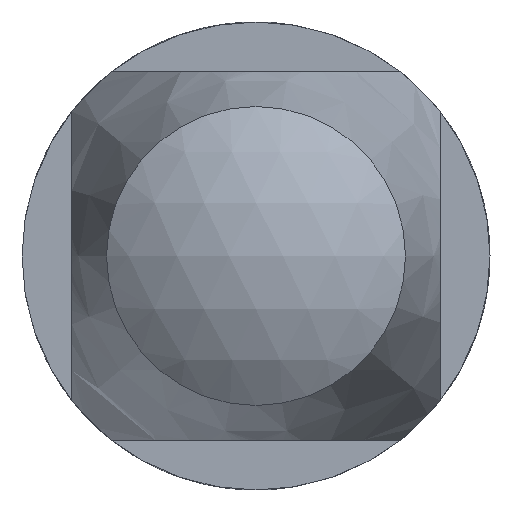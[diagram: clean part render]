
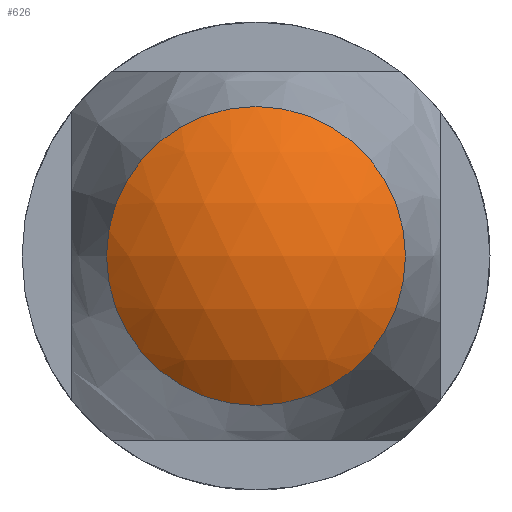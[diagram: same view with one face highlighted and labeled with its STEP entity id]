
A CAD part, front view. The second image highlights one B-rep face of the part: STEP entity #626.
In plain terms, the highlighted spherical face has radius 4.539 mm.
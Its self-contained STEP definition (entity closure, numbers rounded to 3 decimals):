
#19=SPHERICAL_SURFACE('',#689,4.539);
#214=FACE_OUTER_BOUND('',#265,.T.);
#265=EDGE_LOOP('',(#579));
#288=CIRCLE('',#690,2.842);
#345=VERTEX_POINT('',#1251);
#426=EDGE_CURVE('',#345,#345,#288,.T.);
#579=ORIENTED_EDGE('',*,*,#426,.F.);
#626=ADVANCED_FACE('',(#214),#19,.T.);
#689=AXIS2_PLACEMENT_3D('',#1250,#853,#854);
#690=AXIS2_PLACEMENT_3D('',#1252,#855,#856);
#853=DIRECTION('center_axis',(0.,0.,1.));
#854=DIRECTION('ref_axis',(1.,0.,0.));
#855=DIRECTION('center_axis',(0.,1.,0.));
#856=DIRECTION('ref_axis',(-1.,0.,0.));
#1250=CARTESIAN_POINT('Origin',(0.,-24.761,
0.));
#1251=CARTESIAN_POINT('',(-2.842,-28.3,0.));
#1252=CARTESIAN_POINT('Origin',(0.,-28.3,0.));
